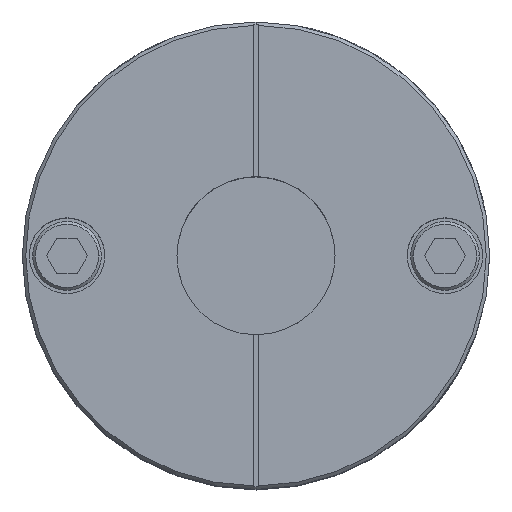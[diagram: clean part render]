
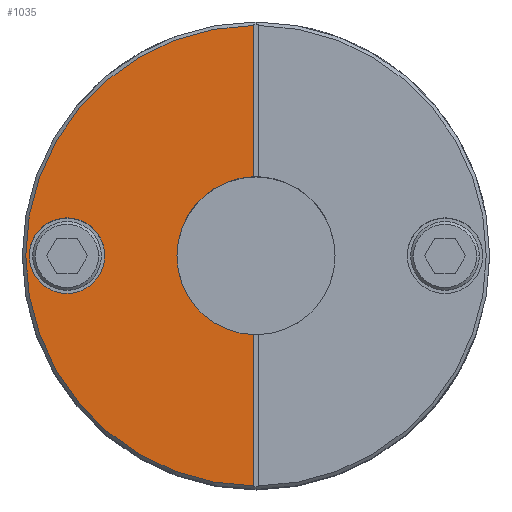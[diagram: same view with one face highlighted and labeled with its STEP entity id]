
A CAD part, top view. The second image highlights one B-rep face of the part: STEP entity #1035.
In plain terms, the highlighted planar face has unit normal (0, 0, 1).
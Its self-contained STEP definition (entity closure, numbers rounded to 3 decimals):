
#704 = EDGE_CURVE ( 'NONE', #1016, #705, #3087, .T. ) ;
#705 = VERTEX_POINT ( 'NONE', #3082 ) ;
#911 = EDGE_LOOP ( 'NONE', ( #912, #914 ) ) ;
#912 = ORIENTED_EDGE ( 'NONE', *, *, #913, .F. ) ;
#913 = EDGE_CURVE ( 'NONE', #1068, #1065, #3579, .T. ) ;
#914 = ORIENTED_EDGE ( 'NONE', *, *, #1067, .F. ) ;
#915 = EDGE_LOOP ( 'NONE', ( #916, #1378, #1381, #1383 ) ) ;
#916 = ORIENTED_EDGE ( 'NONE', *, *, #1376, .F. ) ;
#1016 = VERTEX_POINT ( 'NONE', #3366 ) ;
#1035 = ADVANCED_FACE ( 'NONE', ( #3627, #3626 ), #3625, .T. ) ;
#1065 = VERTEX_POINT ( 'NONE', #3717 ) ;
#1067 = EDGE_CURVE ( 'NONE', #1065, #1068, #3716, .T. ) ;
#1068 = VERTEX_POINT ( 'NONE', #3776 ) ;
#1376 = EDGE_CURVE ( 'NONE', #1377, #1016, #2177, .T. ) ;
#1377 = VERTEX_POINT ( 'NONE', #2172 ) ;
#1378 = ORIENTED_EDGE ( 'NONE', *, *, #1379, .T. ) ;
#1379 = EDGE_CURVE ( 'NONE', #1377, #1380, #2173, .T. ) ;
#1380 = VERTEX_POINT ( 'NONE', #2176 ) ;
#1381 = ORIENTED_EDGE ( 'NONE', *, *, #1382, .F. ) ;
#1382 = EDGE_CURVE ( 'NONE', #705, #1380, #2190, .T. ) ;
#1383 = ORIENTED_EDGE ( 'NONE', *, *, #704, .F. ) ;
#2159 = DIRECTION ( 'NONE',  ( 1., 0., 0. ) ) ;
#2163 = VECTOR ( 'NONE', #2194, 1000. ) ;
#2164 = CARTESIAN_POINT ( 'NONE',  ( -33.6, -0.375, 24. ) ) ;
#2170 = VECTOR ( 'NONE', #2159, 1000. ) ;
#2171 = CARTESIAN_POINT ( 'NONE',  ( -33.6, -0.375, 24. ) ) ;
#2172 = CARTESIAN_POINT ( 'NONE',  ( -33.498, -0.375, 24. ) ) ;
#2173 = CIRCLE ( 'NONE', #2175, 33.5 ) ;
#2174 = CARTESIAN_POINT ( 'NONE',  ( 0., 0., 24. ) ) ;
#2175 = AXIS2_PLACEMENT_3D ( 'NONE', #2174, #2179, #2178 ) ;
#2176 = CARTESIAN_POINT ( 'NONE',  ( 33.498, -0.375, 24. ) ) ;
#2177 = LINE ( 'NONE', #2171, #2170 ) ;
#2178 = DIRECTION ( 'NONE',  ( 1., 0., 0. ) ) ;
#2179 = DIRECTION ( 'NONE',  ( 0., 0., 1. ) ) ;
#2190 = LINE ( 'NONE', #2164, #2163 ) ;
#2194 = DIRECTION ( 'NONE',  ( 1., 0., 0. ) ) ;
#3082 = CARTESIAN_POINT ( 'NONE',  ( 11.494, -0.375, 24. ) ) ;
#3083 = DIRECTION ( 'NONE',  ( 1., 0., 0. ) ) ;
#3084 = DIRECTION ( 'NONE',  ( 0., 0., 1. ) ) ;
#3085 = CARTESIAN_POINT ( 'NONE',  ( 0., 0., 24. ) ) ;
#3086 = AXIS2_PLACEMENT_3D ( 'NONE', #3085, #3084, #3083 ) ;
#3087 = CIRCLE ( 'NONE', #3086, 11.5 ) ;
#3366 = CARTESIAN_POINT ( 'NONE',  ( -11.494, -0.375, 24. ) ) ;
#3575 = DIRECTION ( 'NONE',  ( 1., 0., 0. ) ) ;
#3576 = DIRECTION ( 'NONE',  ( 0., 0., 1. ) ) ;
#3577 = CARTESIAN_POINT ( 'NONE',  ( 0., -27.5, 24. ) ) ;
#3578 = AXIS2_PLACEMENT_3D ( 'NONE', #3577, #3576, #3575 ) ;
#3579 = CIRCLE ( 'NONE', #3578, 5.5 ) ;
#3621 = DIRECTION ( 'NONE',  ( 1., 0., 0. ) ) ;
#3622 = DIRECTION ( 'NONE',  ( 0., 0., 1. ) ) ;
#3623 = CARTESIAN_POINT ( 'NONE',  ( 0., 0., 24. ) ) ;
#3624 = AXIS2_PLACEMENT_3D ( 'NONE', #3623, #3622, #3621 ) ;
#3625 = PLANE ( 'NONE',  #3624 ) ;
#3626 = FACE_OUTER_BOUND ( 'NONE', #915, .T. ) ;
#3627 = FACE_BOUND ( 'NONE', #911, .T. ) ;
#3712 = DIRECTION ( 'NONE',  ( 1., 0., 0. ) ) ;
#3713 = DIRECTION ( 'NONE',  ( 0., 0., 1. ) ) ;
#3714 = CARTESIAN_POINT ( 'NONE',  ( 0., -27.5, 24. ) ) ;
#3715 = AXIS2_PLACEMENT_3D ( 'NONE', #3714, #3713, #3712 ) ;
#3716 = CIRCLE ( 'NONE', #3715, 5.5 ) ;
#3717 = CARTESIAN_POINT ( 'NONE',  ( -5.5, -27.5, 24. ) ) ;
#3776 = CARTESIAN_POINT ( 'NONE',  ( 5.5, -27.5, 24. ) ) ;
